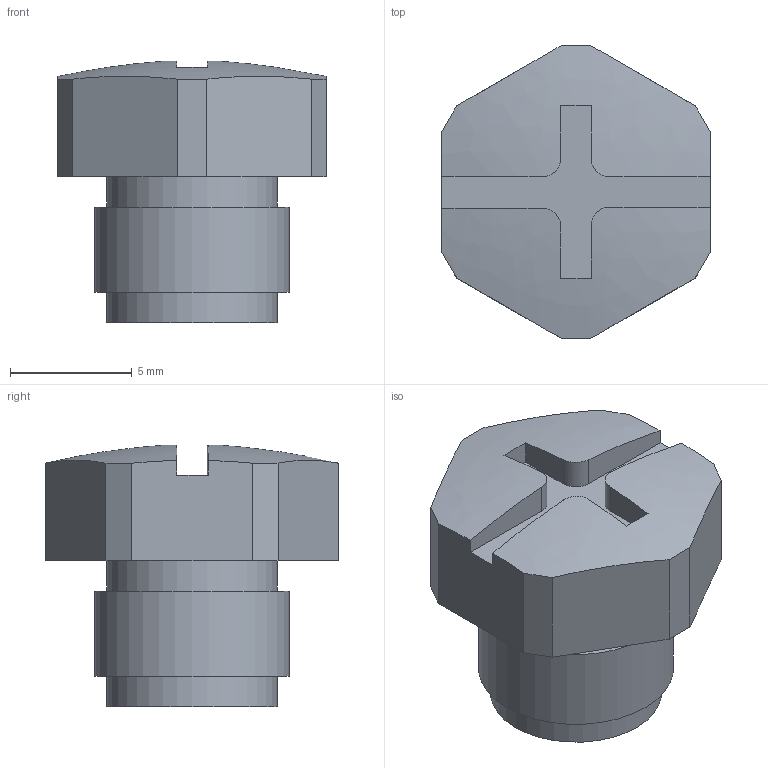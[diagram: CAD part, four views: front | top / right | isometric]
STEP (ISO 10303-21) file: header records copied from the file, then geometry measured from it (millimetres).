
FILE_DESCRIPTION((''),'2;1');
FILE_NAME('C:\TurckZip\PSGM-CC.stp','2010-01-04T12:47:52',('IKOROL'),(''),'Autodesk Inventor 2009','Autodesk Inventor 2009','');
FILE_SCHEMA(('CONFIG_CONTROL_DESIGN'));
Length unit declared in the file: millimetre
Products named in the file (1): Part1
Bounding box: 11 x 12 x 10.74 mm (x, y, z)
Volume: 703.8 mm3; surface area: 556.8 mm2
Topology: 1 solids, 1 shells, 36 faces, 93 edges, 62 vertices
Faces by surface type: plane 27, cylinder 7, bspline 2
Full cylindrical faces by diameter (mm): 7 x2, 8 x1
Entity records: 1239 total; most frequent: CARTESIAN_POINT 357, ORIENTED_EDGE 180, DIRECTION 142, EDGE_CURVE 90, VERTEX_POINT 62, VECTOR 52, LINE 52, AXIS2_PLACEMENT_3D 45
